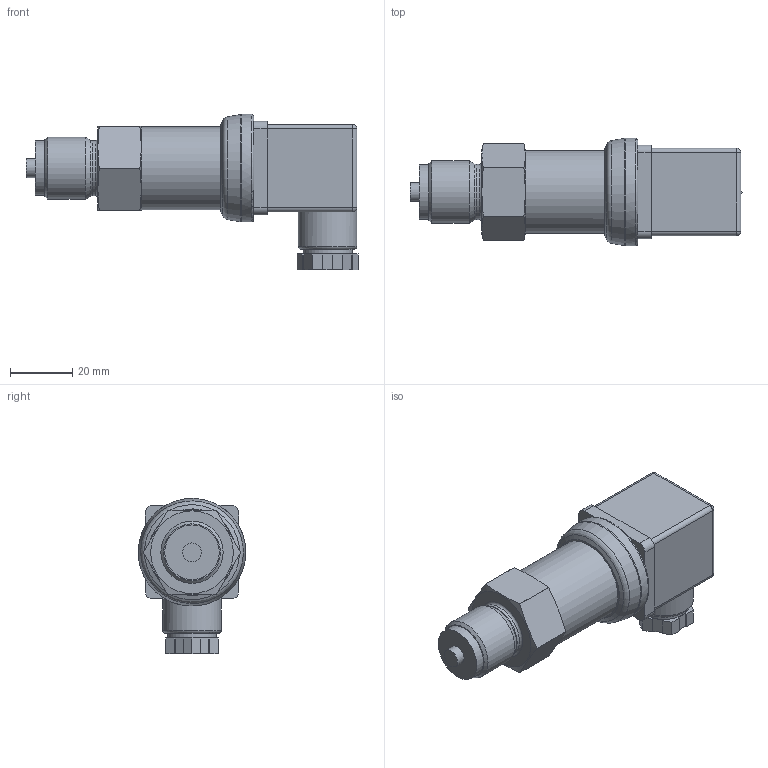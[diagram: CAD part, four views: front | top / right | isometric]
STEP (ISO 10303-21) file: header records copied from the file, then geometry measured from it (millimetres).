
FILE_DESCRIPTION(/* description */ (''),/* implementation_level */ '2;1');
FILE_NAME(/* name */ 'W:\Veřejné dokumenty\3D modely výrobků\DMP331_M20x1,5_EN837_ISO4400_standard.stp',/* time_stamp */ '2015-04-20T10:44:03+02:00',/* author */ ('CZ1067'),/* organization */ (''),/* preprocessor_version */ 'ST-DEVELOPER v15.2',/* originating_system */ 'Autodesk Inventor 2014',/* authorisation */ '');
FILE_SCHEMA (('AUTOMOTIVE_DESIGN { 1 0 10303 214 3 1 1 }'));
Length unit declared in the file: millimetre
Products named in the file (1): DMP331_M20x1,5_EN837_ISO4400_standard
Bounding box: 106.46 x 34.48 x 49.75 mm (x, y, z)
Volume: 69232.6 mm3; surface area: 12558.5 mm2
Topology: 1 solids, 1 shells, 106 faces, 263 edges, 162 vertices
Faces by surface type: plane 62, cylinder 27, torus 7, cone 6, sphere 4
Full cylindrical faces by diameter (mm): 6 x1, 15.7 x1, 17.5 x1, 17.7 x1, 18.8 x1, 19.968 x1, 26.5 x1, 34.5 x1
Entity records: 3057 total; most frequent: CARTESIAN_POINT 529, DIRECTION 502, ORIENTED_EDGE 464, EDGE_CURVE 232, AXIS2_PLACEMENT_3D 177, VERTEX_POINT 156, LINE 148, VECTOR 148
